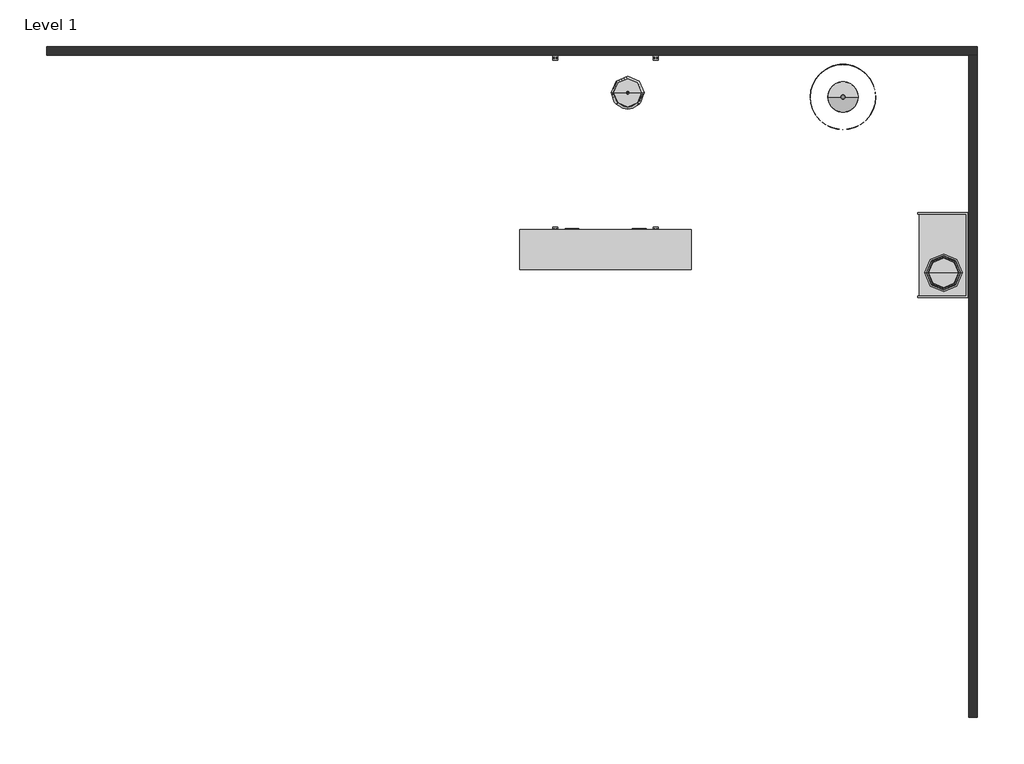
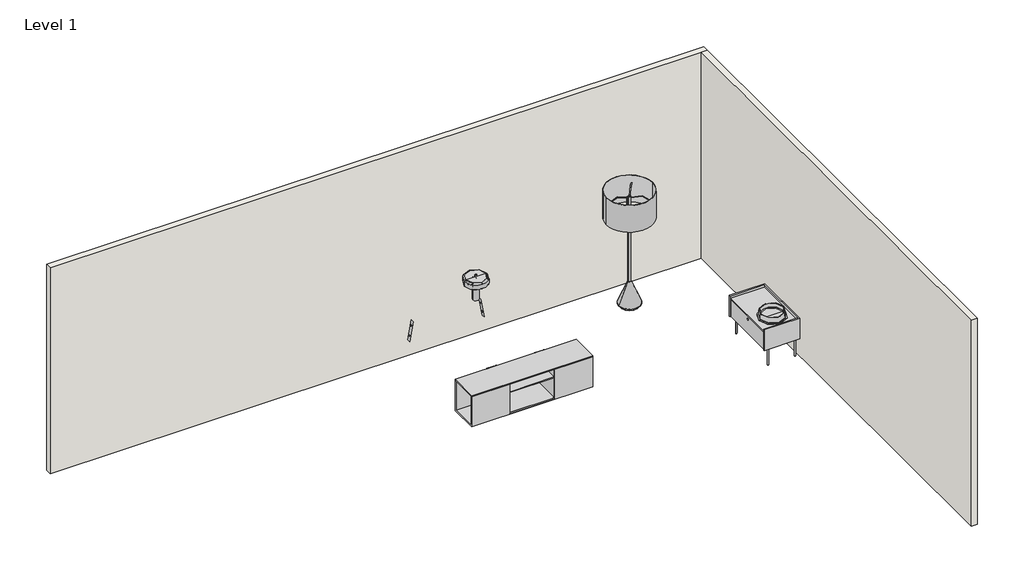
# One storey, incomplete: 10 furniture elements, 2 walls.
"""IFC4 building model written with IfcOpenShell, lengths in millimetres."""

from ifc_helpers import new_model, si_unit, origin, origin_with_axes, place, context, project, spatial, polyline, outline, extrude, faceted_brep, transform, mapped, element, save
from components import furniture_64b5cb5d, furniture_60w_d8397edf, attachment_bracket_46c987b0, floor_3f1f4aa1, full_half_8ba35e3a, full_half_125b1efd, large_bowl_f3ab3fe9, table_88db3fc4

model = new_model("IFC4")

# Units and contexts
model_context = context("Model", 3, world=origin())
ifc_project = project(units=[si_unit("LENGTHUNIT", "METRE", prefix="MILLI")], contexts=[model_context])

# Site, building, storey
site = spatial("IfcSite", under=ifc_project)
building = spatial("IfcBuilding", under=site)
storey = spatial("IfcBuildingStorey", under=building, Name="Level 1", Elevation=0.0)

# Furniture
placement = place(None, origin())
furniture_shape = furniture_64b5cb5d(model_context)
element("IfcFurniture", 1, ObjectType="Blu Dot - Peek - Nightstand : Nightstand", at=placement, inside=storey, context=model_context, shape_type="MappedRepresentation", body=[
    mapped(furniture_shape, transform((-33713.3582947, -392444.1741828, 0.0), x_axis=(0.0, -1.0, 0.0), y_axis=(1.0, 0.0, 0.0), z_axis=(0.0, 0.0, 1.0))),
])
furniture_60w_shape = furniture_60w_d8397edf(model_context)
element("IfcFurniture", 2, ObjectType="Steelcase Turnstone - Bivi - Storage - Trunk : 60W", at=placement, inside=storey, context=model_context, shape_type="MappedRepresentation", body=[
    mapped(furniture_60w_shape, transform((-37480.9449884, -392220.4617331, 0.0), x_axis=(1.0, 0.0, 0.0), y_axis=(0.0, 1.0, 0.0), z_axis=(0.0, 0.0, 1.0))),
])
attachment_bracket_shape = attachment_bracket_46c987b0(model_context)
element("IfcFurniture", 3, ObjectType="Steelcase Turnstone - Bivi - Storage - Trunk Support : Attachment Bracket", at=placement, inside=storey, context=model_context, shape_type="MappedRepresentation", body=[
    mapped(attachment_bracket_shape, transform((-37480.9449884, -392195.900054, 0.0), x_axis=(1.0, 0.0, 0.0), y_axis=(0.0, 1.0, 0.0), z_axis=(0.0, 0.0, 1.0))),
])
floor_shape = floor_3f1f4aa1(model_context)
element("IfcFurniture", 4, ObjectType="Blu Dot - Flask - Lamp : Floor", at=placement, inside=storey, context=model_context, shape_type="MappedRepresentation", body=[
    mapped(floor_shape, transform((-34607.5070995, -391042.0508204, 0.0), x_axis=(1.0, 0.0, 0.0), y_axis=(0.0, 1.0, 0.0), z_axis=(0.0, 0.0, 1.0))),
])
full_half_shape = full_half_8ba35e3a(model_context)
element("IfcFurniture", 5, ObjectType="Steelcase Turnstone - Bivi - Table - Leg Cover : Full/Half", at=placement, inside=storey, context=model_context, shape_type="MappedRepresentation", body=[
    mapped(full_half_shape, transform((-36182.5659102, -392239.71265, 0.0), x_axis=(0.0, 1.0, 0.0), y_axis=(-1.0, 0.0, 0.0), z_axis=(0.0, 0.0, 1.0))),
])
element("IfcFurniture", 6, ObjectType="Steelcase Turnstone - Bivi - Table - Leg Cover : Full/Half", at=placement, inside=storey, context=model_context, shape_type="MappedRepresentation", body=[
    mapped(full_half_shape, transform((-36182.5659102, -390714.03625, 0.0), x_axis=(0.0, 1.0, 0.0), y_axis=(-1.0, 0.0, 0.0), z_axis=(0.0, 0.0, 1.0))),
])
full_half_2_shape = full_half_125b1efd(model_context)
element("IfcFurniture", 7, ObjectType="Steelcase Turnstone - Bivi - Table - Leg Cover : Full/Half", at=placement, inside=storey, context=model_context, shape_type="MappedRepresentation", body=[
    mapped(full_half_2_shape, transform((-37255.8398091, -392239.71265, 0.0), x_axis=(0.0, 1.0, 0.0), y_axis=(-1.0, 0.0, 0.0), z_axis=(0.0, 0.0, 1.0))),
])
element("IfcFurniture", 8, ObjectType="Steelcase Turnstone - Bivi - Table - Leg Cover : Full/Half", at=placement, inside=storey, context=model_context, shape_type="MappedRepresentation", body=[
    mapped(full_half_2_shape, transform((-37255.8398091, -390714.03625, 0.0), x_axis=(0.0, 1.0, 0.0), y_axis=(-1.0, 0.0, 0.0), z_axis=(0.0, 0.0, 1.0))),
])
large_bowl_shape = large_bowl_f3ab3fe9(model_context)
element("IfcFurniture", 9, ObjectType="Blu Dot - Flange - Bowls : Large Bowl", at=placement, inside=storey, context=model_context, shape_type="MappedRepresentation", body=[
    mapped(large_bowl_shape, transform((-33713.3582947, -392602.1515371, 0.0), x_axis=(1.0, 0.0, 0.0), y_axis=(0.0, 1.0, 0.0), z_axis=(0.0, 0.0, 1.0))),
])
table_shape = table_88db3fc4(model_context)
element("IfcFurniture", 10, ObjectType="Blu Dot - Punk - Lamp : Table", at=placement, inside=storey, context=model_context, shape_type="MappedRepresentation", body=[
    mapped(table_shape, transform((-36522.4862602, -391000.5577168, 723.9), x_axis=(1.0, 0.0, 0.0), y_axis=(0.0, 1.0, 0.0), z_axis=(0.0, 0.0, 1.0))),
])

# Walls
element("IfcWall", 11, ObjectType="3in Wall", at=placement, inside=storey, context=model_context, shape_type="Brep", body=[
    faceted_brep([(-41690.1470561, -390664.91265, 0.0), (-33487.8691857, -390664.91265, 0.0), (-33411.6691857, -390664.91265, 0.0), (-33411.6691857, -390664.91265, 2743.2), (-33487.8691857, -390664.91265, 2743.2), (-41690.1470561, -390664.91265, 2743.2), (-41690.1470561, -390588.71265, 0.0), (-41690.1470561, -390588.71265, 2743.2), (-33411.6691857, -390588.71265, 2743.2), (-33411.6691857, -390588.71265, 0.0)], [[[0, 1, 2, 3, 4, 5]], [[6, 7, 8, 9]], [[2, 1, 0, 6, 9]], [[5, 4, 3, 8, 7]], [[0, 5, 7, 6]], [[3, 2, 9, 8]]]),
])
element("IfcWall", 12, ObjectType="3in Wall", at=placement, inside=storey, context=model_context, shape_type="SweptSolid", body=[
    extrude(outline(polyline([(-33487.8691857, -396558.51265), (-33487.8691857, -390664.91265), (-33411.6691857, -390664.91265), (-33411.6691857, -396558.51265), (-33487.8691857, -396558.51265)])), origin_with_axes(), (0.0, 0.0, 1.0), 2743.2),
])

save(model, "model.ifc")
